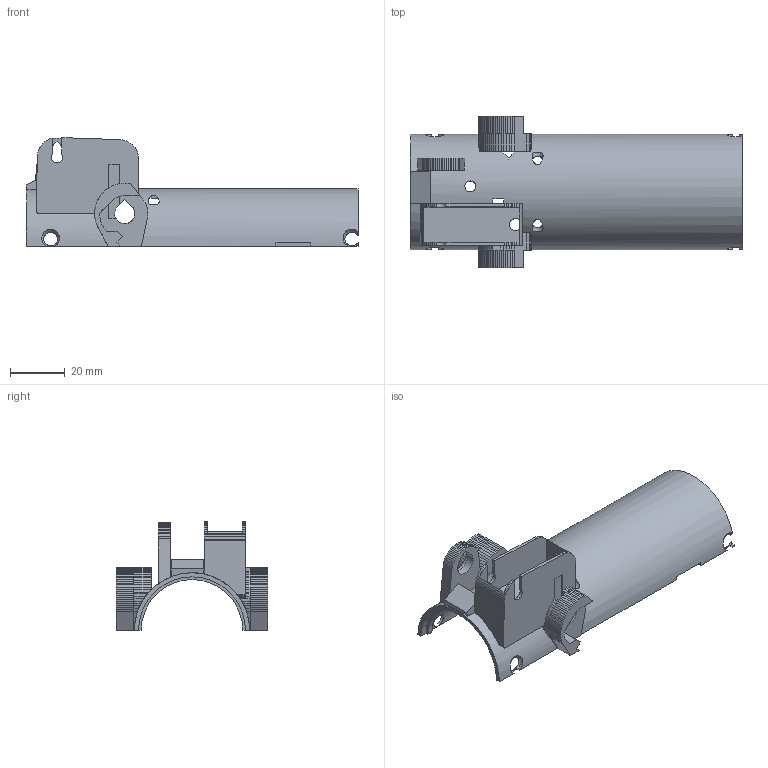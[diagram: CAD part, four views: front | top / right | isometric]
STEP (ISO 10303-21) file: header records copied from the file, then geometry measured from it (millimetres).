
FILE_DESCRIPTION(('Open CASCADE Model'),'2;1');
FILE_NAME('Open CASCADE Shape Model','2026-11-07T04:41:25',('Author'),( 'Open CASCADE'),'Open CASCADE STEP processor 8.0','build123d', 'Unknown');
FILE_SCHEMA(('AUTOMOTIVE_DESIGN { 1 0 10303 214 1 1 1 1 }'));
Length unit declared in the file: millimetre
Products named in the file (1): COMPOUND
Bounding box: 120.97 x 55.2 x 39.63 mm (x, y, z)
Volume: 21649.9 mm3; surface area: 21886 mm2
Topology: 1 solids, 1 shells, 437 faces, 1233 edges, 790 vertices
Faces by surface type: plane 411, cylinder 22, cone 4
Full cylindrical faces by diameter (mm): 4 x3, 4.4 x1
Entity records: 35380 total; most frequent: CARTESIAN_POINT 11377, DIRECTION 4202, LINE 3027, VECTOR 3027, ORIENTED_EDGE 2466, PCURVE 2466, DEFINITIONAL_REPRESENTATION 2466, EDGE_CURVE 1233
